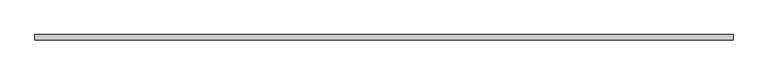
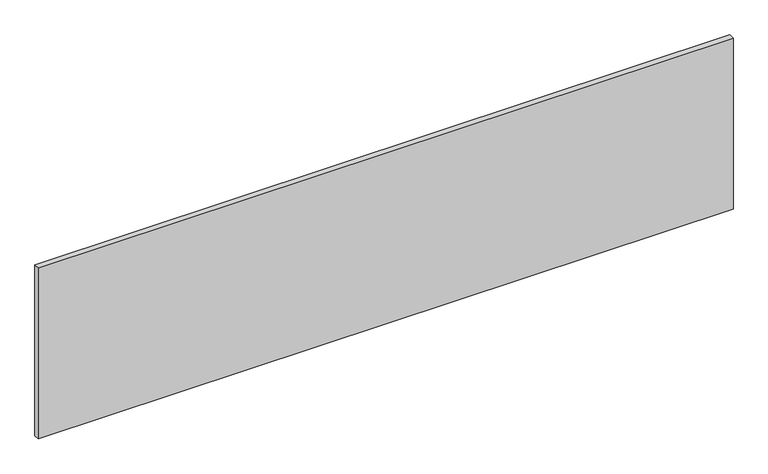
"""IFC4 building model written with IfcOpenShell, lengths in millimetres: proxy geometry, ELEVATE^CREDENZA 35h_25x96 B 4 DOOR-STONE."""

from ifc_helpers import new_model, si_unit, frame, origin, place, context, project, spatial, polyline, outline, extrude, source, transform, mapped, element, save


def generic_models_55746d80(model_context):
    return source(origin(), model_context, "Body", "SweptSolid", [
        extrude(outline(polyline([(2438.4, 0.0), (0.0, 0.0), (0.0, 19.05), (2438.4, 19.05), (2438.4, 0.0)])), frame((0.0, 0.0, -635.0), z_axis=(0.0, 0.0, 1.0), x_axis=(1.0, 0.0, 0.0)), (0.0, 0.0, 1.0), 635.0),
    ])


if __name__ == "__main__":
    model = new_model("IFC4")
    model_context = context("Model", 3, world=origin())
    ifc_project = project(units=[si_unit("LENGTHUNIT", "METRE", prefix="MILLI")], contexts=[model_context])
    site = spatial("IfcSite", under=ifc_project)
    building = spatial("IfcBuilding", under=site)
    placement = place(None, origin())
    generic_models_shape = generic_models_55746d80(model_context)
    element("IfcBuildingElementProxy", 1, Name="ELEVATE^CREDENZA 35h_25x96 B 4 DOOR-STONE", ObjectType="ELEVATE^CREDENZA 35h_25x96 B 4 DOOR-STONE", at=placement, inside=building, context=model_context, shape_type="MappedRepresentation", body=[
        mapped(generic_models_shape, transform((0.0, 0.0, 0.0), x_axis=(1.0, 0.0, 0.0), y_axis=(0.0, 1.0, 0.0), z_axis=(0.0, 0.0, 1.0))),
    ])
    save(model, "model.ifc")
